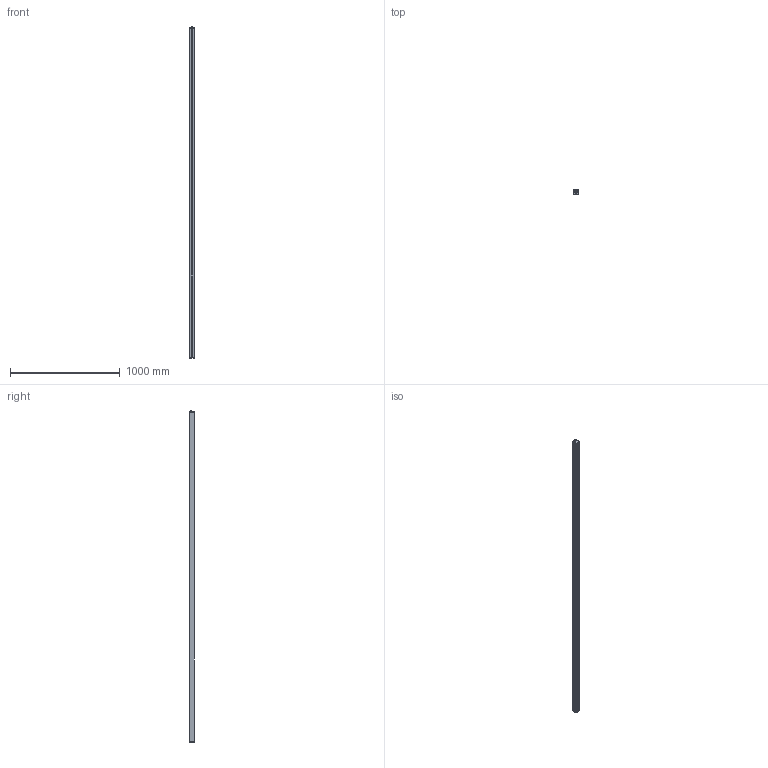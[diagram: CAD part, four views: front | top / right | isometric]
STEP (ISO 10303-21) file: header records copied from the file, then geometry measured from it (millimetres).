
FILE_DESCRIPTION (( 'STEP AP214' ), '1' );
FILE_NAME ('NBAR120.STEP', '2012-01-14T10:41:03', ( 'JRLEDS' ), ( '' ), 'SwSTEP 2.0', 'SolidWorks 2010', '' );
FILE_SCHEMA (( 'AUTOMOTIVE_DESIGN' ));
Length unit declared in the file: millimetre
Products named in the file (8): Embout ALU; PROT-NBAR102; screw_din_912-m5x0_8-10-8_8_Default; Embout percé ALU; SW3DPS-FISCHER_DBP_103_Z053-130-DEFAULT; CIR6LED; NBAR120; PROF-NBAR102
Assembly tree (29 placements, depth 2):
  NBAR120
    SW3DPS-FISCHER_DBP_103_Z053-130-DEFAULT
    CIR6LED  x20
    screw_din_912-m5x0_8-10-8_8_Default  x4
    Embout percé ALU
    PROF-NBAR102
    Embout ALU
    PROT-NBAR102
Bounding box: 45.1 x 45 x 3030 mm (x, y, z)
Volume: 1951650.2 mm3; surface area: 1880804.3 mm2
Topology: 149 solids, 149 shells, 1158 faces, 2455 edges, 1594 vertices
Faces by surface type: plane 789, cylinder 331, cone 16, torus 14, sphere 8
Entity records: 9220 total; most frequent: DIRECTION 1334, CARTESIAN_POINT 1293, ORIENTED_EDGE 1180, EDGE_CURVE 590, AXIS2_PLACEMENT_3D 472, LINE 390, VECTOR 390, VERTEX_POINT 379
